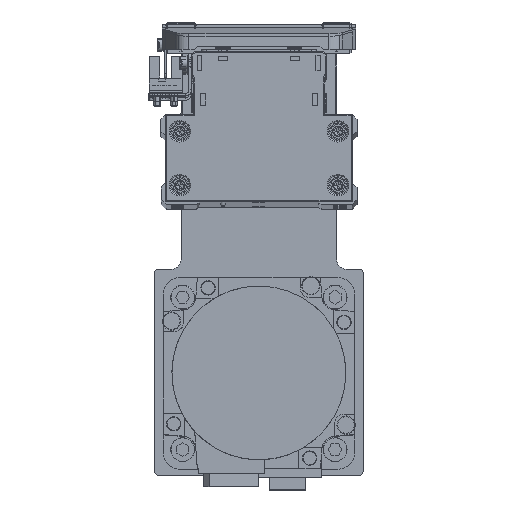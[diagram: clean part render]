
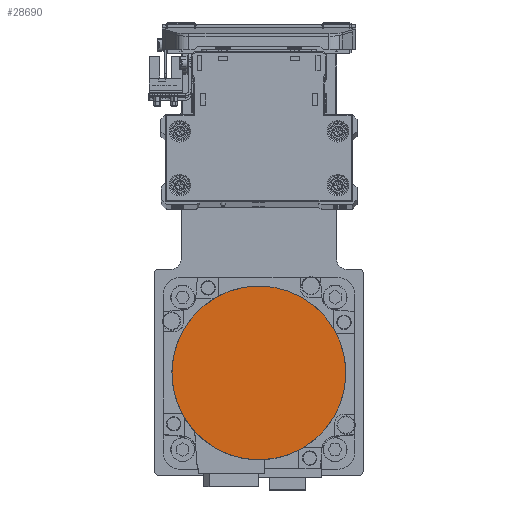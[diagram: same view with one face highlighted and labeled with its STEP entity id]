
A CAD part, top view. The second image highlights one B-rep face of the part: STEP entity #28690.
In plain terms, the highlighted planar face has unit normal (0, 0, 1) as drawn and (0, 0, -1) by its records, which use the part's own axes.
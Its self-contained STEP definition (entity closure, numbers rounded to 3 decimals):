
#14 = DIRECTION ( 'NONE',  ( 0., -1., 0. ) ) ;
#85 = VERTEX_POINT ( 'NONE', #16766 ) ;
#779 = DIRECTION ( 'NONE',  ( 0., 0., 1. ) ) ;
#872 = AXIS2_PLACEMENT_3D ( 'NONE', #28715, #779, #13230 ) ;
#3864 = FACE_OUTER_BOUND ( 'NONE', #18500, .T. ) ;
#9691 = CARTESIAN_POINT ( 'NONE',  ( 0., 36.3, -122.2 ) ) ;
#10141 = EDGE_CURVE ( 'NONE', #24410, #85, #11211, .T. ) ;
#10795 = AXIS2_PLACEMENT_3D ( 'NONE', #15527, #27948, #14 ) ;
#11211 = CIRCLE ( 'NONE', #33971, 36.3 ) ;
#11531 = CARTESIAN_POINT ( 'NONE',  ( 0., 0., -122.2 ) ) ;
#13230 = DIRECTION ( 'NONE',  ( 1., 0., 0. ) ) ;
#15527 = CARTESIAN_POINT ( 'NONE',  ( 0., 0., -122.2 ) ) ;
#16286 = PLANE ( 'NONE',  #872 ) ;
#16766 = CARTESIAN_POINT ( 'NONE',  ( 0., -36.3, -122.2 ) ) ;
#18500 = EDGE_LOOP ( 'NONE', ( #34232, #28809 ) ) ;
#23977 = DIRECTION ( 'NONE',  ( 0., 0., 1. ) ) ;
#24410 = VERTEX_POINT ( 'NONE', #9691 ) ;
#27948 = DIRECTION ( 'NONE',  ( 0., 0., 1. ) ) ;
#28372 = CIRCLE ( 'NONE', #10795, 36.3 ) ;
#28690 = ADVANCED_FACE ( 'NONE', ( #3864 ), #16286, .F. ) ;
#28715 = CARTESIAN_POINT ( 'NONE',  ( 0., 0., -122.2 ) ) ;
#28809 = ORIENTED_EDGE ( 'NONE', *, *, #39171, .F. ) ;
#33971 = AXIS2_PLACEMENT_3D ( 'NONE', #11531, #23977, #36367 ) ;
#34232 = ORIENTED_EDGE ( 'NONE', *, *, #10141, .F. ) ;
#36367 = DIRECTION ( 'NONE',  ( 0., 1., 0. ) ) ;
#39171 = EDGE_CURVE ( 'NONE', #85, #24410, #28372, .T. ) ;
